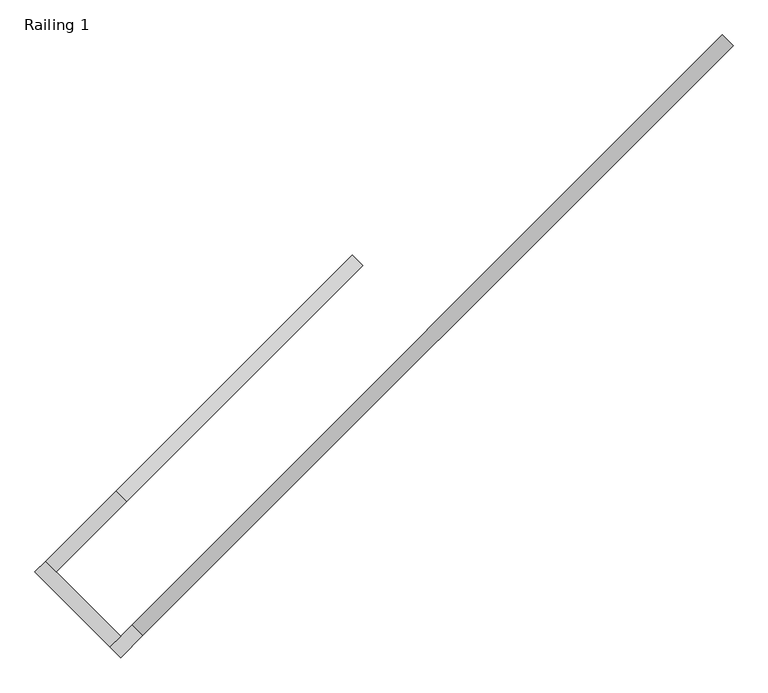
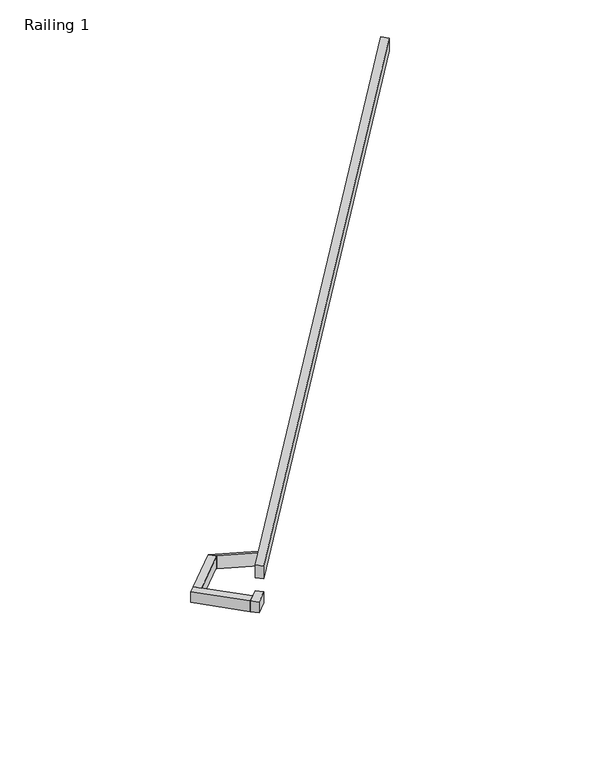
"""IFC4 building model written with IfcOpenShell, lengths in millimetres: railing geometry, Railing 1."""

import ifcopenshell
import ifcopenshell.guid

model = None  # the IFC model being written
_history = None  # IfcOwnerHistory: only IFC2X3 demands one
_inside = {}  # id of a spatial element -> (the spatial element, [elements in it])
_under = {}  # id of a project, library or spatial element -> (it, [spatial elements below it])
_declared = {}  # id of a project -> (the project, [libraries it declares])
_typed = {}  # id of a type object -> (the type object, [elements of that type])
_made_of = {}  # id of a material, layer set ... -> (it, [elements and type objects made of it])


def new_model(schema):
    """Start an empty IFC model of exactly this schema.

    Asked for "IFC4X3", IfcOpenShell would pick the latest addendum, in which some entities
    have other attributes; the version numbers below select the first issue.
    IFC2X3 requires an IfcOwnerHistory on every rooted entity: one is made here for all.
    """
    global model, _history
    if schema == "IFC4X3":
        model = ifcopenshell.file(schema_version=(4, 3, 0, 0))
    else:
        model = ifcopenshell.file(schema=schema)
    _inside.clear()
    _under.clear()
    _declared.clear()
    _typed.clear()
    _made_of.clear()
    _history = None
    if model.schema == "IFC2X3":
        org = make("IfcOrganization", Name="unknown")
        user = make(
            "IfcPersonAndOrganization",
            ThePerson=make("IfcPerson", FamilyName="unknown"),
            TheOrganization=org,
        )
        app = make(
            "IfcApplication",
            ApplicationDeveloper=org,
            Version="unknown",
            ApplicationFullName="unknown",
            ApplicationIdentifier="unknown",
        )
        _history = make(
            "IfcOwnerHistory",
            OwningUser=user,
            OwningApplication=app,
            ChangeAction="ADDED",
            CreationDate=0,
        )
    return model


def make(cls, **values):
    """One entity of the class cls with the attributes given. An attribute that is None is left unset."""
    return model.create_entity(
        cls, **{name: value for name, value in values.items() if value is not None}
    )


def rooted(cls, **values):
    """An entity with a GlobalId (a new one), such as an element, a storey or a relation."""
    return make(cls, GlobalId=ifcopenshell.guid.new(), OwnerHistory=_history, **values)


def si_unit(unit_type, name, prefix=None):
    """IfcSIUnit, for example si_unit("LENGTHUNIT", "METRE", prefix="MILLI")."""
    return make("IfcSIUnit", UnitType=unit_type, Prefix=prefix, Name=name)


def assignment(units):
    """IfcUnitAssignment: the units of a project."""
    return None if units is None else make("IfcUnitAssignment", Units=units)


def point(xyz):
    """IfcCartesianPoint."""
    return None if xyz is None else make("IfcCartesianPoint", Coordinates=xyz)


def direction(xyz):
    """IfcDirection."""
    return None if xyz is None else make("IfcDirection", DirectionRatios=xyz)


def frame(location, z_axis=None, x_axis=None):
    """IfcAxis2Placement3D, a coordinate frame: its origin and axes. An axis left out is left unset."""
    return make(
        "IfcAxis2Placement3D",
        Location=point(location),
        Axis=direction(z_axis),
        RefDirection=direction(x_axis),
    )


def origin():
    """The frame at (0, 0, 0) with its axes left unset."""
    return frame((0.0, 0.0, 0.0))


def place(relative_to, where):
    """IfcLocalPlacement: puts the frame where relative to a parent placement (None: the world)."""
    return make(
        "IfcLocalPlacement", PlacementRelTo=relative_to, RelativePlacement=where
    )


def context(
    kind, dimensions, precision=None, world=None, true_north=None, identifier=None
):
    """IfcGeometricRepresentationContext, for example the 3D "Model" context."""
    return make(
        "IfcGeometricRepresentationContext",
        ContextIdentifier=identifier,
        ContextType=kind,
        CoordinateSpaceDimension=dimensions,
        Precision=precision,
        WorldCoordinateSystem=world,
        TrueNorth=true_north,
    )


def project(units=None, contexts=None):
    """IfcProject with its units and contexts."""
    return rooted(
        "IfcProject",
        Name="project",
        RepresentationContexts=contexts,
        UnitsInContext=assignment(units),
    )


def spatial(cls, under=None, at=None, **own):
    """A site, building, storey or space (cls), placed at a placement, below another one or the project."""
    s = rooted(cls, ObjectPlacement=at, **own)
    if under is not None:
        _under.setdefault(under.id(), (under, []))[1].append(s)
    return s


def polyline(points):
    """IfcPolyline through the points."""
    return make("IfcPolyline", Points=[point(p) for p in points])


def outline(outer, holes=None, kind="AREA"):
    """IfcArbitraryClosedProfileDef: a profile drawn as a closed curve; with holes, ...WithVoids."""
    if holes is None:
        return make("IfcArbitraryClosedProfileDef", ProfileType=kind, OuterCurve=outer)
    return make(
        "IfcArbitraryProfileDefWithVoids",
        ProfileType=kind,
        OuterCurve=outer,
        InnerCurves=holes,
    )


def extrude(swept, where, along, depth):
    """IfcExtrudedAreaSolid: the profile swept, set in the frame where, extruded along a direction by depth."""
    return make(
        "IfcExtrudedAreaSolid",
        SweptArea=swept,
        Position=where,
        ExtrudedDirection=direction(along),
        Depth=depth,
    )


def shape(context_of_items, identifier, shape_type, items):
    """IfcShapeRepresentation: the items that make up one representation, for example the "Body"."""
    return make(
        "IfcShapeRepresentation",
        ContextOfItems=context_of_items,
        RepresentationIdentifier=identifier,
        RepresentationType=shape_type,
        Items=items,
    )


def source(mapping_origin, context_of_items, identifier, shape_type, items):
    """IfcRepresentationMap: a shape defined once, which mapped items show again and again."""
    return make(
        "IfcRepresentationMap",
        MappingOrigin=mapping_origin,
        MappedRepresentation=shape(context_of_items, identifier, shape_type, items),
    )


def transform(
    local_origin,
    x_axis=None,
    y_axis=None,
    z_axis=None,
    scale=None,
    scale2=None,
    scale3=None,
    uniform=True,
):
    """IfcCartesianTransformationOperator3D, or its non-uniform kind. x_axis, y_axis, z_axis: its Axis1, 2, 3."""
    if uniform:
        return make(
            "IfcCartesianTransformationOperator3D",
            Axis1=direction(x_axis),
            Axis2=direction(y_axis),
            LocalOrigin=point(local_origin),
            Scale=scale,
            Axis3=direction(z_axis),
        )
    return make(
        "IfcCartesianTransformationOperator3DnonUniform",
        Axis1=direction(x_axis),
        Axis2=direction(y_axis),
        LocalOrigin=point(local_origin),
        Scale=scale,
        Axis3=direction(z_axis),
        Scale2=scale2,
        Scale3=scale3,
    )


def mapped(mapping_source, mapping_target):
    """IfcMappedItem: shows the shape of a source again, moved by a transform."""
    return make(
        "IfcMappedItem", MappingSource=mapping_source, MappingTarget=mapping_target
    )


def made_of(thing, what):
    """Note that an element or type object is made of a material, layer set ...; save() writes the relation."""
    if what is not None:
        _made_of.setdefault(what.id(), (what, []))[1].append(thing)
    return thing


def element(
    cls,
    number,
    at=None,
    inside=None,
    cuts=None,
    type_object=None,
    material=None,
    context=None,
    identifier="Body",
    shape_type=None,
    held_by="IfcProductDefinitionShape",
    body=None,
    shapes=None,
    **own,
):
    """One element of the class cls, such as IfcWall. Its Tag is "e" and its number.

    at: its placement. inside: the storey or other place that contains it. cuts: it is an
    opening in that element (IfcRelVoidsElement). A single representation is given by context,
    identifier, shape_type and body (its items); several are given by shapes. held_by: the class
    of the entity that holds the representations. save() writes the other relations.
    """
    e = rooted(cls, Tag="e%d" % number, ObjectPlacement=at, **own)
    if body is not None:
        shapes = [shape(context, identifier, shape_type, body)]
    if shapes is not None:
        e.Representation = make(held_by, Representations=shapes)
    if inside is not None:
        _inside.setdefault(inside.id(), (inside, []))[1].append(e)
    if cuts is not None:
        rooted(
            "IfcRelVoidsElement", RelatingBuildingElement=cuts, RelatedOpeningElement=e
        )
    if type_object is not None:
        _typed.setdefault(type_object.id(), (type_object, []))[1].append(e)
    return made_of(e, material)


def aggregate(whole, parts):
    """IfcRelAggregates: a whole, such as a stair, and the parts it consists of."""
    return rooted("IfcRelAggregates", RelatingObject=whole, RelatedObjects=parts)


def save(model, path):
    """Write the relations noted so far, then the file.

    IfcRelAggregates (storeys below a building ...), IfcRelContainedInSpatialStructure (elements
    in a storey), IfcRelDefinesByType, IfcRelAssociatesMaterial and IfcRelDeclares: one each for
    every whole, place, type object, material and project.
    """
    for whole, parts in _under.values():
        aggregate(whole, parts)
    for where, things in _inside.values():
        rooted(
            "IfcRelContainedInSpatialStructure",
            RelatedElements=things,
            RelatingStructure=where,
        )
    for kind, things in _typed.values():
        rooted("IfcRelDefinesByType", RelatedObjects=things, RelatingType=kind)
    for what, things in _made_of.values():
        rooted("IfcRelAssociatesMaterial", RelatedObjects=things, RelatingMaterial=what)
    for by, libraries in _declared.values():
        rooted("IfcRelDeclares", RelatingContext=by, RelatedDefinitions=libraries)
    model.write(path)


def railing_1_4f2961c4(model_context):
    return source(origin(), model_context, "Body", "SweptSolid", [
        extrude(outline(polyline([(-49.7897727, -76.2), (0.0, 0.0), (1335.0261505, 0.0), (1285.2363778, -76.2000001), (-49.7897727, -76.2)])), frame((-54978.0574371, 9802.7383702, -2103.4375), z_axis=(-0.7071067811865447, 0.7071067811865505, 0.0), x_axis=(-0.5919453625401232, -0.5919453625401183, 0.5469930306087)), (0.0, 0.0, 1.0), 50.8),
        extrude(outline(polyline([(-55804.2410002, 9048.396856), (-55768.3199758, 9012.4758315), (-56004.4295835, 8776.3662237), (-56040.350608, 8812.2872482), (-55804.2410002, 9048.396856)])), frame((0.0, 0.0, -1449.3875), z_axis=(0.0, 0.0, 1.0), x_axis=(1.0, 0.0, 0.0)), (0.0, 0.0, 1.0), 76.2),
        extrude(outline(polyline([(-56076.2716325, 8776.3662237), (-56040.350608, 8812.2872482), (-55789.1934084, 8561.1300486), (-55825.1144329, 8525.2090241), (-56076.2716325, 8776.3662237)])), frame((0.0, 0.0, -1449.3875), z_axis=(0.0, 0.0, 1.0), x_axis=(1.0, 0.0, 0.0)), (0.0, 0.0, 1.0), 76.2),
        extrude(outline(polyline([(-55789.1934084, 8489.2879996), (-55825.1144329, 8525.2090241), (-55750.6494353, 8599.6740217), (-55714.7284108, 8563.7529972), (-55789.1934084, 8489.2879996)])), frame((0.0, 0.0, -1449.3875), z_axis=(0.0, 0.0, 1.0), x_axis=(1.0, 0.0, 0.0)), (0.0, 0.0, 1.0), 76.2),
        extrude(outline(polyline([(49.7897727, -76.2), (0.0, 0.0), (3337.5653762, 0.0), (3387.355149, -76.2), (49.7897727, -76.2)])), frame((-55714.7284108, 8563.7529972, -1281.6495103), z_axis=(-0.70710678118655, 0.7071067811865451, 0.0), x_axis=(0.5919453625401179, 0.5919453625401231, 0.5469930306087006)), (0.0, 0.0, 1.0), 50.8),
    ])


if __name__ == "__main__":
    model = new_model("IFC4")
    model_context = context("Model", 3, world=origin())
    ifc_project = project(units=[si_unit("LENGTHUNIT", "METRE", prefix="MILLI")], contexts=[model_context])
    site = spatial("IfcSite", under=ifc_project)
    building = spatial("IfcBuilding", under=site)
    placement = place(None, origin())
    railing_1_shape = railing_1_4f2961c4(model_context)
    element("IfcRailing", 1, ObjectType="Railing 1", at=placement, inside=building, context=model_context, shape_type="MappedRepresentation", body=[
        mapped(railing_1_shape, transform((0.0, 0.0, 0.0), x_axis=(1.0, 0.0, 0.0), y_axis=(0.0, 1.0, 0.0), z_axis=(0.0, 0.0, 1.0))),
    ])
    save(model, "model.ifc")
